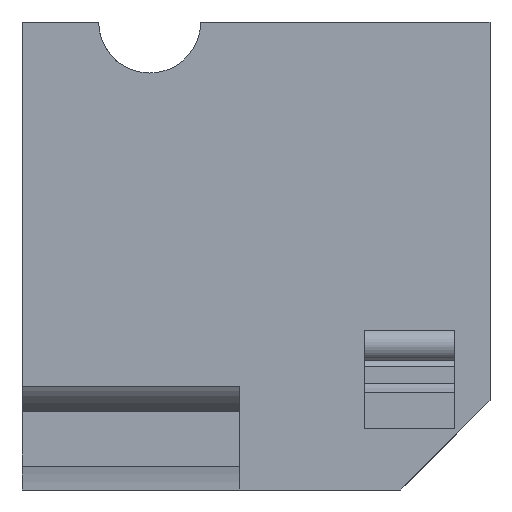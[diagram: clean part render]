
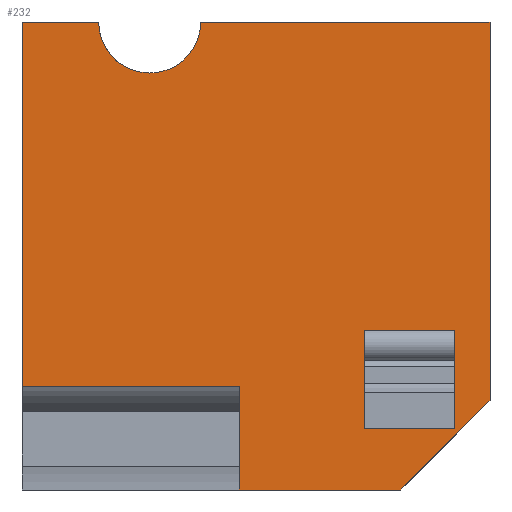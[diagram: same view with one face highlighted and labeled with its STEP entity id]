
A CAD part, left-side view. The second image highlights one B-rep face of the part: STEP entity #232.
In plain terms, the highlighted planar face has unit normal (-1, 0, 0).
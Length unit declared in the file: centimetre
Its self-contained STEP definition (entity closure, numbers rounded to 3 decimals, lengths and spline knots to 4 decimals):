
#2 = CARTESIAN_POINT ( 'NONE',  ( 0., 76.1216, 130.9771 ) ) ;
#30 = CARTESIAN_POINT ( 'NONE',  ( 0., 535.6052, 221.4239 ) ) ;
#34 = ORIENTED_EDGE ( 'NONE', *, *, #1246, .T. ) ;
#37 = DIRECTION ( 'NONE',  ( 0., -0.707, 0.707 ) ) ;
#64 = VECTOR ( 'NONE', #405, 100. ) ;
#69 = VECTOR ( 'NONE', #1259, 100. ) ;
#85 = EDGE_CURVE ( 'NONE', #529, #641, #114, .T. ) ;
#106 = DIRECTION ( 'NONE',  ( 0., -1., 0. ) ) ;
#114 = LINE ( 'NONE', #2, #1115 ) ;
#124 = VERTEX_POINT ( 'NONE', #373 ) ;
#127 = DIRECTION ( 'NONE',  ( 0., 1., 0. ) ) ;
#135 = VECTOR ( 'NONE', #1074, 100. ) ;
#138 = VERTEX_POINT ( 'NONE', #30 ) ;
#147 = EDGE_LOOP ( 'NONE', ( #223, #1205, #1158, #1446, #1131, #1377, #671, #34, #1427, #1359 ) ) ;
#149 = CARTESIAN_POINT ( 'NONE',  ( 0., 0., 190.4967 ) ) ;
#151 = DIRECTION ( 'NONE',  ( 1., 0., 0. ) ) ;
#154 = LINE ( 'NONE', #481, #69 ) ;
#194 = VERTEX_POINT ( 'NONE', #286 ) ;
#199 = DIRECTION ( 'NONE',  ( 1., 0., 0. ) ) ;
#223 = ORIENTED_EDGE ( 'NONE', *, *, #261, .T. ) ;
#230 = EDGE_CURVE ( 'NONE', #246, #714, #1297, .T. ) ;
#232 = ADVANCED_FACE ( 'NONE', ( #1307, #728 ), #475, .F. ) ;
#239 = CARTESIAN_POINT ( 'NONE',  ( 0., 76.1216, 340.9852 ) ) ;
#246 = VERTEX_POINT ( 'NONE', #1413 ) ;
#261 = EDGE_CURVE ( 'NONE', #194, #440, #638, .T. ) ;
#279 = CARTESIAN_POINT ( 'NONE',  ( 0., 0., 1000. ) ) ;
#280 = EDGE_CURVE ( 'NONE', #500, #138, #780, .T. ) ;
#286 = CARTESIAN_POINT ( 'NONE',  ( 0., 1000., 1000. ) ) ;
#292 = EDGE_CURVE ( 'NONE', #124, #654, #554, .T. ) ;
#308 = EDGE_LOOP ( 'NONE', ( #1449, #777, #1340, #659 ) ) ;
#323 = LINE ( 'NONE', #776, #946 ) ;
#337 = LINE ( 'NONE', #1252, #675 ) ;
#355 = CARTESIAN_POINT ( 'NONE',  ( 0., 836.2481, 1000. ) ) ;
#373 = CARTESIAN_POINT ( 'NONE',  ( 0., 268.7831, 340.9852 ) ) ;
#378 = LINE ( 'NONE', #846, #800 ) ;
#385 = CARTESIAN_POINT ( 'NONE',  ( 0., 0., 190.4967 ) ) ;
#389 = AXIS2_PLACEMENT_3D ( 'NONE', #719, #1080, #1418 ) ;
#405 = DIRECTION ( 'NONE',  ( 0., 0., 1. ) ) ;
#415 = VECTOR ( 'NONE', #1343, 100. ) ;
#440 = VERTEX_POINT ( 'NONE', #1271 ) ;
#475 = PLANE ( 'NONE',  #990 ) ;
#481 = CARTESIAN_POINT ( 'NONE',  ( 0., 535.6052, 221.4239 ) ) ;
#488 = EDGE_CURVE ( 'NONE', #440, #138, #154, .T. ) ;
#492 = CARTESIAN_POINT ( 'NONE',  ( 0., 1000., 1000. ) ) ;
#500 = VERTEX_POINT ( 'NONE', #705 ) ;
#507 = VECTOR ( 'NONE', #1461, 100. ) ;
#525 = EDGE_CURVE ( 'NONE', #641, #124, #1264, .T. ) ;
#529 = VERTEX_POINT ( 'NONE', #574 ) ;
#543 = CARTESIAN_POINT ( 'NONE',  ( 0., 727.2099, 1000. ) ) ;
#554 = LINE ( 'NONE', #894, #1253 ) ;
#560 = DIRECTION ( 'NONE',  ( 0., 0., 1. ) ) ;
#574 = CARTESIAN_POINT ( 'NONE',  ( 0., 76.1216, 130.9771 ) ) ;
#602 = VECTOR ( 'NONE', #37, 100. ) ;
#630 = CARTESIAN_POINT ( 'NONE',  ( 0., 1000., 1000. ) ) ;
#638 = LINE ( 'NONE', #630, #507 ) ;
#641 = VERTEX_POINT ( 'NONE', #1082 ) ;
#654 = VERTEX_POINT ( 'NONE', #1207 ) ;
#659 = ORIENTED_EDGE ( 'NONE', *, *, #525, .F. ) ;
#670 = LINE ( 'NONE', #886, #415 ) ;
#671 = ORIENTED_EDGE ( 'NONE', *, *, #813, .F. ) ;
#675 = VECTOR ( 'NONE', #1028, 100. ) ;
#676 = CARTESIAN_POINT ( 'NONE',  ( 0., 535.6052, 1000. ) ) ;
#701 = EDGE_CURVE ( 'NONE', #194, #982, #323, .T. ) ;
#705 = CARTESIAN_POINT ( 'NONE',  ( 0., 535.6052, 0. ) ) ;
#714 = VERTEX_POINT ( 'NONE', #385 ) ;
#719 = CARTESIAN_POINT ( 'NONE',  ( 0., 727.2099, 1000. ) ) ;
#726 = DIRECTION ( 'NONE',  ( 0., -1., 0. ) ) ;
#728 = FACE_OUTER_BOUND ( 'NONE', #147, .T. ) ;
#741 = EDGE_CURVE ( 'NONE', #1067, #982, #1183, .T. ) ;
#776 = CARTESIAN_POINT ( 'NONE',  ( 0., 1000., 1000. ) ) ;
#777 = ORIENTED_EDGE ( 'NONE', *, *, #943, .F. ) ;
#780 = LINE ( 'NONE', #676, #64 ) ;
#800 = VECTOR ( 'NONE', #726, 100. ) ;
#813 = EDGE_CURVE ( 'NONE', #940, #246, #378, .T. ) ;
#846 = CARTESIAN_POINT ( 'NONE',  ( 0., 1000., 1000. ) ) ;
#877 = CARTESIAN_POINT ( 'NONE',  ( 0., 618.1717, 1000. ) ) ;
#886 = CARTESIAN_POINT ( 'NONE',  ( 0., 76.1216, 130.9771 ) ) ;
#894 = CARTESIAN_POINT ( 'NONE',  ( 0., 268.7831, 130.9771 ) ) ;
#900 = VECTOR ( 'NONE', #127, 100. ) ;
#922 = CARTESIAN_POINT ( 'NONE',  ( 0., 727.2099, 890.9618 ) ) ;
#940 = VERTEX_POINT ( 'NONE', #877 ) ;
#943 = EDGE_CURVE ( 'NONE', #654, #529, #670, .T. ) ;
#946 = VECTOR ( 'NONE', #106, 100. ) ;
#954 = DIRECTION ( 'NONE',  ( 0., 0., -1. ) ) ;
#970 = EDGE_CURVE ( 'NONE', #500, #1150, #337, .T. ) ;
#982 = VERTEX_POINT ( 'NONE', #355 ) ;
#990 = AXIS2_PLACEMENT_3D ( 'NONE', #492, #151, #954 ) ;
#1028 = DIRECTION ( 'NONE',  ( 0., -1., 0. ) ) ;
#1067 = VERTEX_POINT ( 'NONE', #922 ) ;
#1074 = DIRECTION ( 'NONE',  ( 0., 0., -1. ) ) ;
#1080 = DIRECTION ( 'NONE',  ( 1., 0., 0. ) ) ;
#1082 = CARTESIAN_POINT ( 'NONE',  ( 0., 76.1216, 340.9852 ) ) ;
#1115 = VECTOR ( 'NONE', #560, 100. ) ;
#1131 = ORIENTED_EDGE ( 'NONE', *, *, #1197, .T. ) ;
#1150 = VERTEX_POINT ( 'NONE', #1182 ) ;
#1158 = ORIENTED_EDGE ( 'NONE', *, *, #280, .F. ) ;
#1182 = CARTESIAN_POINT ( 'NONE',  ( 0., 190.4967, 0. ) ) ;
#1183 = CIRCLE ( 'NONE', #389, 109.0382 ) ;
#1197 = EDGE_CURVE ( 'NONE', #1150, #714, #1318, .T. ) ;
#1205 = ORIENTED_EDGE ( 'NONE', *, *, #488, .T. ) ;
#1207 = CARTESIAN_POINT ( 'NONE',  ( 0., 268.7831, 130.9771 ) ) ;
#1246 = EDGE_CURVE ( 'NONE', #940, #1067, #1349, .T. ) ;
#1251 = DIRECTION ( 'NONE',  ( 0., 0., -1. ) ) ;
#1252 = CARTESIAN_POINT ( 'NONE',  ( 0., 1000., 0. ) ) ;
#1253 = VECTOR ( 'NONE', #1251, 100. ) ;
#1259 = DIRECTION ( 'NONE',  ( 0., -1., 0. ) ) ;
#1264 = LINE ( 'NONE', #239, #900 ) ;
#1271 = CARTESIAN_POINT ( 'NONE',  ( 0., 1000., 221.4239 ) ) ;
#1297 = LINE ( 'NONE', #279, #135 ) ;
#1307 = FACE_BOUND ( 'NONE', #308, .T. ) ;
#1318 = LINE ( 'NONE', #149, #602 ) ;
#1321 = AXIS2_PLACEMENT_3D ( 'NONE', #543, #199, #1460 ) ;
#1340 = ORIENTED_EDGE ( 'NONE', *, *, #292, .F. ) ;
#1343 = DIRECTION ( 'NONE',  ( 0., -1., 0. ) ) ;
#1349 = CIRCLE ( 'NONE', #1321, 109.0382 ) ;
#1359 = ORIENTED_EDGE ( 'NONE', *, *, #701, .F. ) ;
#1377 = ORIENTED_EDGE ( 'NONE', *, *, #230, .F. ) ;
#1413 = CARTESIAN_POINT ( 'NONE',  ( 0., 0., 1000. ) ) ;
#1418 = DIRECTION ( 'NONE',  ( 0., 0., -1. ) ) ;
#1427 = ORIENTED_EDGE ( 'NONE', *, *, #741, .T. ) ;
#1446 = ORIENTED_EDGE ( 'NONE', *, *, #970, .T. ) ;
#1449 = ORIENTED_EDGE ( 'NONE', *, *, #85, .F. ) ;
#1460 = DIRECTION ( 'NONE',  ( 0., 0., -1. ) ) ;
#1461 = DIRECTION ( 'NONE',  ( 0., 0., -1. ) ) ;
